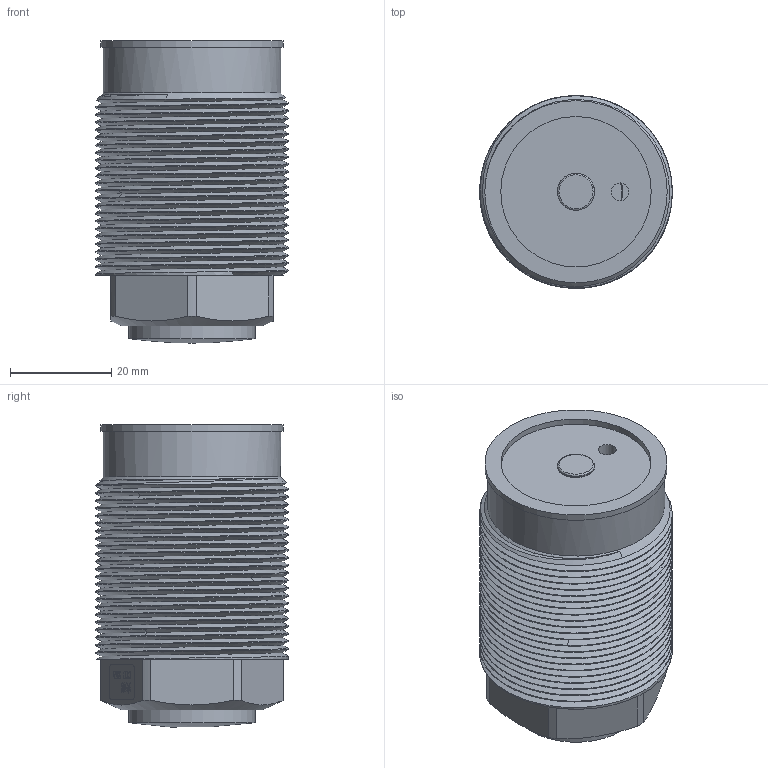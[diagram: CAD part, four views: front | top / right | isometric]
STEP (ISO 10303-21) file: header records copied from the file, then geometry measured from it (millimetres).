
FILE_DESCRIPTION(/* description */ (''),/* implementation_level */ '2;1');
FILE_NAME(/* name */ 'CTC-25A.stp',/* time_stamp */ '2022-04-28T11:06:05+08:00',/* author */ (''),/* organization */ (''),/* preprocessor_version */ 'ST-DEVELOPER v16.7',/* originating_system */ 'SIEMENS PLM Software NX 12.0',/* authorisation */ '');
FILE_SCHEMA (('AUTOMOTIVE_DESIGN { 1 0 10303 214 3 1 1 1 }'));
Length unit declared in the file: millimetre
Products named in the file (1): CTC-25A
Bounding box: 38 x 38 x 59.64 mm (x, y, z)
Volume: 48355.8 mm3; surface area: 28953.9 mm2
Topology: 5 solids, 5 shells, 257 faces, 677 edges, 452 vertices
Faces by surface type: plane 161, extrusion 49, cylinder 27, bspline 14, cone 3, torus 2, sphere 1
Full cylindrical faces by diameter (mm): 3.5 x1, 5 x2, 7.321 x1, 10 x1, 18 x1, 18.4 x1, 25 x2, 28 x2, 29.7 x1, 31 x2, 35 x1, 36 x1
Entity records: 15153 total; most frequent: CARTESIAN_POINT 7813, ORIENTED_EDGE 1298, DIRECTION 991, EDGE_CURVE 649, VECTOR 497, LINE 448, VERTEX_POINT 445, EDGE_LOOP 306
